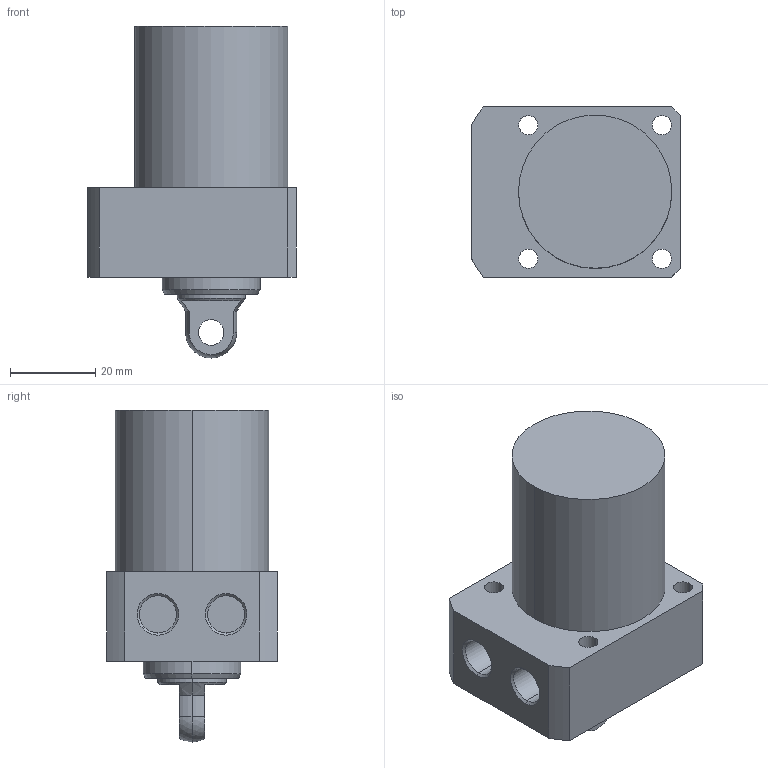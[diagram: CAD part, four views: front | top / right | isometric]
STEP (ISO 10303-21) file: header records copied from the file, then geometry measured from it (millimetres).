
FILE_DESCRIPTION (( 'STEP AP203' ), '1' );
FILE_NAME ('CLLR036-CP-30.STEP', '2017-05-10T08:59:34', ( '' ), ( '' ), 'SwSTEP 2.0', 'SolidWorks 2015', '' );
FILE_SCHEMA (( 'CONFIG_CONTROL_DESIGN' ));
Length unit declared in the file: millimetre
Products named in the file (1): CLLR036-CP-30
Bounding box: 49 x 40 x 78 mm (x, y, z)
Volume: 79224.5 mm3; surface area: 14321.5 mm2
Topology: 1 solids, 1 shells, 57 faces, 135 edges, 87 vertices
Faces by surface type: cylinder 29, plane 18, cone 8, sphere 2
Entity records: 1770 total; most frequent: DIRECTION 319, CARTESIAN_POINT 292, ORIENTED_EDGE 270, EDGE_CURVE 135, AXIS2_PLACEMENT_3D 130, VERTEX_POINT 87, EDGE_LOOP 74, CIRCLE 72
